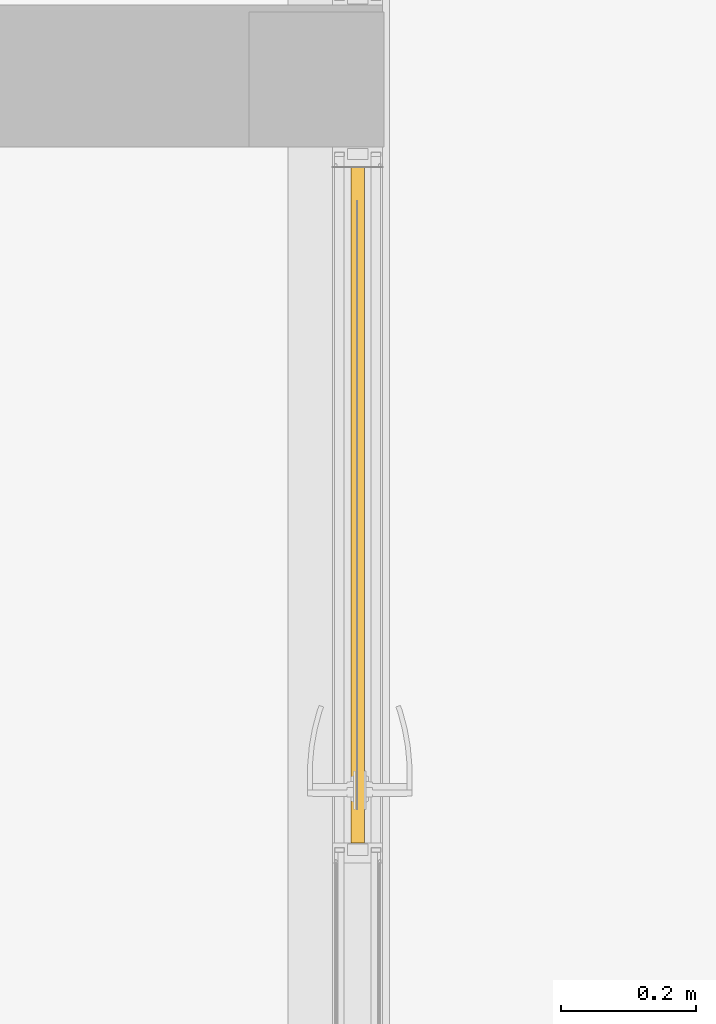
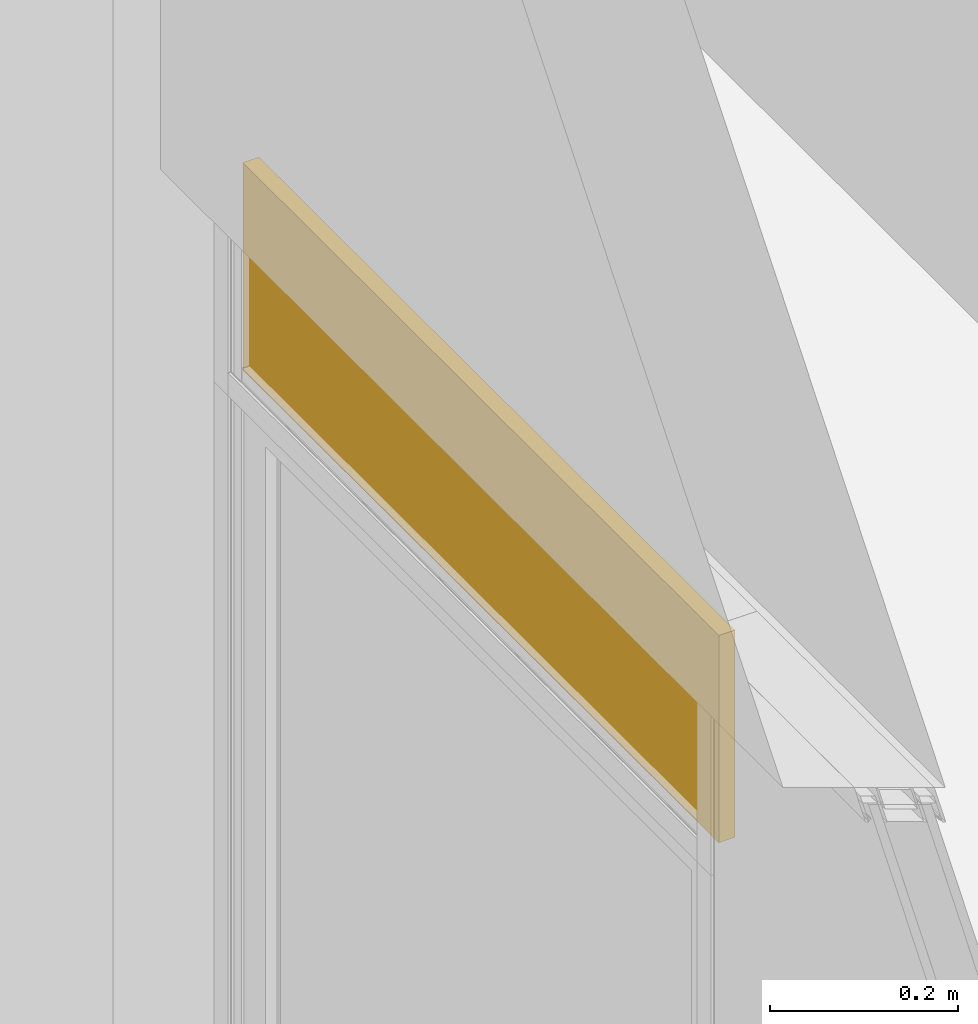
# One storey, part 55 of 65: 1 door, 1 element without a shape of its own.
"""IFC2X3 building model written with IfcOpenShell, lengths in millimetres."""

from ifc_helpers import new_model, entity, si_unit, converted_unit, derived_unit, money_unit, direction, frame, origin_with_axes, place, context, subcontext, project, spatial, polyline, outline, extrude, material, type_object, element, aggregate, save


model = new_model("IFC2X3")

# Units and contexts
model_context = context("Model", 3, precision=0.01, world=origin_with_axes(), true_north=direction((0.0, 1.0)))
body_context = subcontext(model_context, "Body", "Model", "MODEL_VIEW")
ifc_project = project(units=[si_unit("LENGTHUNIT", "METRE", prefix="MILLI"), si_unit("AREAUNIT", "SQUARE_METRE"), si_unit("VOLUMEUNIT", "CUBIC_METRE"), converted_unit("PLANEANGLEUNIT", "DEGREE", entity("IfcPlaneAngleMeasure", 0.0174532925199), si_unit("PLANEANGLEUNIT", "RADIAN"), dimensions=[0, 0, 0, 0, 0, 0, 0]), si_unit("SOLIDANGLEUNIT", "STERADIAN"), money_unit("EUR"), converted_unit("TIMEUNIT", "Year", entity("IfcTimeMeasure", 31556926.0), si_unit("TIMEUNIT", "SECOND"), dimensions=[0, 0, 1, 0, 0, 0, 0]), si_unit("MASSUNIT", "GRAM", prefix="KILO"), si_unit("THERMODYNAMICTEMPERATUREUNIT", "DEGREE_CELSIUS"), si_unit("LUMINOUSINTENSITYUNIT", "LUMEN"), si_unit("ENERGYUNIT", "JOULE", prefix="MEGA"), derived_unit("THERMALCONDUCTANCEUNIT", [(si_unit("POWERUNIT", "WATT"), 1), (si_unit("LENGTHUNIT", "METRE"), -1), (si_unit("THERMODYNAMICTEMPERATUREUNIT", "KELVIN"), -1)]), derived_unit("SPECIFICHEATCAPACITYUNIT", [(si_unit("ENERGYUNIT", "JOULE"), 1), (si_unit("MASSUNIT", "GRAM", prefix="KILO"), -1), (si_unit("THERMODYNAMICTEMPERATUREUNIT", "KELVIN"), -1)]), derived_unit("MASSDENSITYUNIT", [(si_unit("MASSUNIT", "GRAM", prefix="KILO"), 1), (si_unit("VOLUMEUNIT", "CUBIC_METRE"), -1)])], contexts=[model_context])

# Site, building, storey
site_placement = place(None, origin_with_axes())
site = spatial("IfcSite", under=ifc_project, at=site_placement, Name="Puškini 31, Narva", CompositionType="ELEMENT")
building_placement = place(site_placement, origin_with_axes())
building = spatial("IfcBuilding", under=site, at=building_placement, Name="Narva Riigigümnaasium", CompositionType="ELEMENT")
storey_placement = place(building_placement, frame((0.0, 0.0, -1320.0), z_axis=(0.0, 0.0, 1.0), x_axis=(1.0, 0.0, 0.0)))
storey = spatial("IfcBuildingStorey", under=building, at=storey_placement, Name="1.korrus -1.32", CompositionType="ELEMENT", Elevation=-1320.0)

# Curtain wall, door
curtain_wall_type = type_object("IfcCurtainWallType", Name="Curtain Wall Type", PredefinedType="NOTDEFINED")
curtain_wall_placement = place(storey_placement, frame((30362.9999988, 164066.428557, -5.96047033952e-06), z_axis=(0.0, 0.0, 1.0), x_axis=(1.0, 0.0, 0.0)))
curtain_wall = element("IfcCurtainWall", 1, at=curtain_wall_placement, inside=storey, type_object=curtain_wall_type, Name="G-SKLF-04")
ifc_material = material(Name="VKR-05_Klaas")
door_style = type_object("IfcDoorStyle", Name="1000 x 270 x 20", ConstructionType="NOTDEFINED", OperationType="NOTDEFINED", ParameterTakesPrecedence=False, Sizeable=False)
door_placement = place(curtain_wall_placement, frame((0.0, 2580.10476415, 2550.00001398), z_axis=(0.0, 0.0, 1.0), x_axis=(0.0, -1.0, 0.0)))
door = element("IfcDoor", 2, at=door_placement, type_object=door_style, material=ifc_material, Name="G-SKLF-04-U1", ObjectType="DOOR", context=body_context, shape_type="SweptSolid", body=[
    extrude(outline(polyline([(-338.466627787, -134.99999982), (676.733322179, -134.99999982), (676.733322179, 134.999991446), (-338.466627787, 134.999991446), (-338.466627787, -134.99999982)])), frame((0.0, -10.0, 0.0), z_axis=(0.0, 1.0, 0.0), x_axis=(1.0, 0.0, 0.0)), (0.0, 0.0, 1.0), 20.0),
])
aggregate(curtain_wall, [door])

save(model, "model.ifc")
